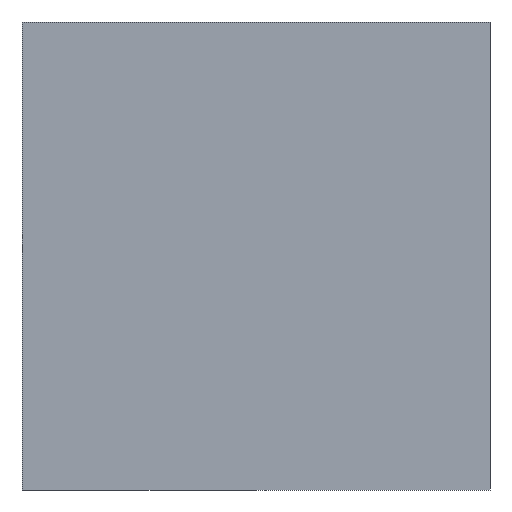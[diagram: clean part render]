
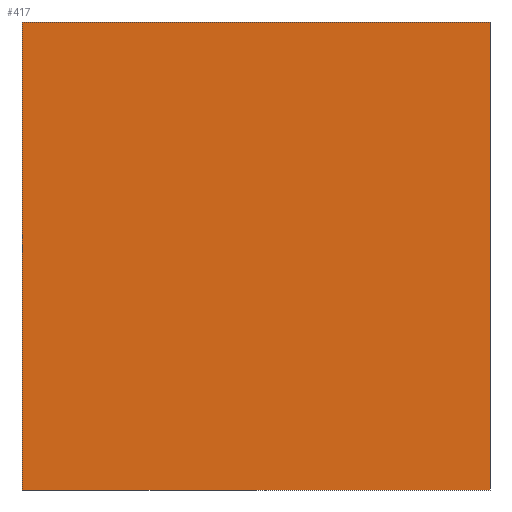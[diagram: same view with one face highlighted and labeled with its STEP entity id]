
A CAD part, left-side view. The second image highlights one B-rep face of the part: STEP entity #417.
In plain terms, the highlighted planar face has unit normal (-1, 0, 0).
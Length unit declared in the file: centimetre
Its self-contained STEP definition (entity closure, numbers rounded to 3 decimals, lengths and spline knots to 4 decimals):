
#8 = CARTESIAN_POINT ( 'NONE',  ( 0., 1000., 0. ) ) ;
#19 = AXIS2_PLACEMENT_3D ( 'NONE', #273, #234, #302 ) ;
#22 = LINE ( 'NONE', #50, #152 ) ;
#23 = CARTESIAN_POINT ( 'NONE',  ( 0., 1000., 0. ) ) ;
#25 = CARTESIAN_POINT ( 'NONE',  ( 0., 0., 0. ) ) ;
#32 = CARTESIAN_POINT ( 'NONE',  ( 0., 1000., 1000. ) ) ;
#40 = VERTEX_POINT ( 'NONE', #8 ) ;
#45 = VECTOR ( 'NONE', #155, 100. ) ;
#46 = EDGE_CURVE ( 'NONE', #308, #168, #242, .T. ) ;
#50 = CARTESIAN_POINT ( 'NONE',  ( 0., 1000., 1000. ) ) ;
#52 = DIRECTION ( 'NONE',  ( 0., 0., -1. ) ) ;
#53 = CARTESIAN_POINT ( 'NONE',  ( 0., 1000., 1000. ) ) ;
#108 = DIRECTION ( 'NONE',  ( 0., 0., -1. ) ) ;
#128 = EDGE_CURVE ( 'NONE', #40, #168, #163, .T. ) ;
#144 = EDGE_CURVE ( 'NONE', #269, #308, #299, .T. ) ;
#152 = VECTOR ( 'NONE', #52, 100. ) ;
#155 = DIRECTION ( 'NONE',  ( 0., -1., 0. ) ) ;
#163 = LINE ( 'NONE', #23, #45 ) ;
#168 = VERTEX_POINT ( 'NONE', #25 ) ;
#212 = VECTOR ( 'NONE', #365, 100. ) ;
#218 = ORIENTED_EDGE ( 'NONE', *, *, #144, .F. ) ;
#234 = DIRECTION ( 'NONE',  ( 1., 0., 0. ) ) ;
#242 = LINE ( 'NONE', #421, #293 ) ;
#267 = PLANE ( 'NONE',  #19 ) ;
#269 = VERTEX_POINT ( 'NONE', #32 ) ;
#273 = CARTESIAN_POINT ( 'NONE',  ( 0., 1000., 1000. ) ) ;
#281 = ORIENTED_EDGE ( 'NONE', *, *, #46, .F. ) ;
#293 = VECTOR ( 'NONE', #108, 100. ) ;
#299 = LINE ( 'NONE', #53, #212 ) ;
#302 = DIRECTION ( 'NONE',  ( 0., 0., -1. ) ) ;
#306 = EDGE_LOOP ( 'NONE', ( #437, #281, #218, #337 ) ) ;
#308 = VERTEX_POINT ( 'NONE', #429 ) ;
#337 = ORIENTED_EDGE ( 'NONE', *, *, #382, .T. ) ;
#343 = FACE_OUTER_BOUND ( 'NONE', #306, .T. ) ;
#365 = DIRECTION ( 'NONE',  ( 0., -1., 0. ) ) ;
#382 = EDGE_CURVE ( 'NONE', #269, #40, #22, .T. ) ;
#417 = ADVANCED_FACE ( 'NONE', ( #343 ), #267, .F. ) ;
#421 = CARTESIAN_POINT ( 'NONE',  ( 0., 0., 1000. ) ) ;
#429 = CARTESIAN_POINT ( 'NONE',  ( 0., 0., 1000. ) ) ;
#437 = ORIENTED_EDGE ( 'NONE', *, *, #128, .T. ) ;
